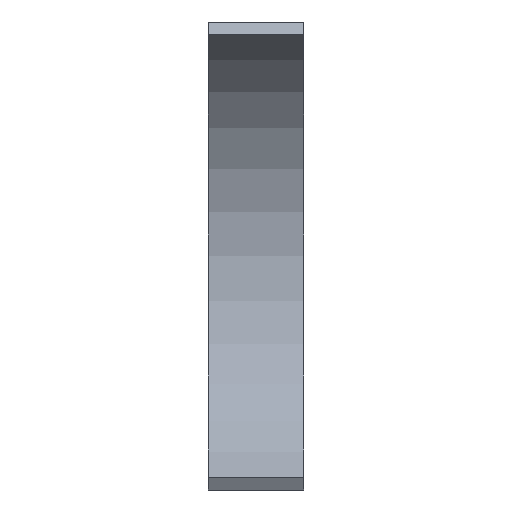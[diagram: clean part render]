
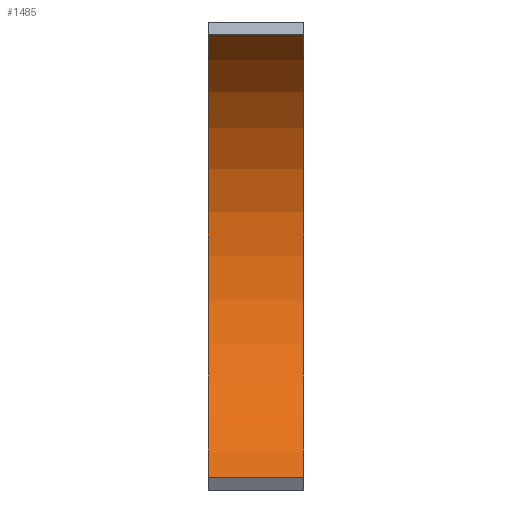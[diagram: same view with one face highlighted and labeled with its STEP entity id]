
A CAD part, top view. The second image highlights one B-rep face of the part: STEP entity #1485.
In plain terms, the highlighted cylindrical face has radius 107 mm (diameter 214 mm), a partial arc.
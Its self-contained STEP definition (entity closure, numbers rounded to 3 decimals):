
#45 = PLANE('',#46);
#46 = AXIS2_PLACEMENT_3D('',#47,#48,#49);
#47 = CARTESIAN_POINT('',(-18.,0.,-86.472));
#48 = DIRECTION('',(1.,0.,0.));
#49 = DIRECTION('',(-0.,0.,1.));
#73 = PLANE('',#74);
#74 = AXIS2_PLACEMENT_3D('',#75,#76,#77);
#75 = CARTESIAN_POINT('',(-18.,-92.665,-53.5));
#76 = DIRECTION('',(0.,0.5,-0.866));
#77 = DIRECTION('',(0.,-0.866,-0.5));
#102 = PLANE('',#103);
#103 = AXIS2_PLACEMENT_3D('',#104,#105,#106);
#104 = CARTESIAN_POINT('',(22.,0.,-86.472));
#105 = DIRECTION('',(1.,0.,0.));
#106 = DIRECTION('',(-0.,0.,1.));
#484 = VERTEX_POINT('',#485);
#485 = CARTESIAN_POINT('',(-18.,-92.665,-53.5));
#616 = VERTEX_POINT('',#617);
#617 = CARTESIAN_POINT('',(-18.,92.665,-53.5));
#631 = PLANE('',#632);
#632 = AXIS2_PLACEMENT_3D('',#633,#634,#635);
#633 = CARTESIAN_POINT('',(-18.,97.861,-56.5));
#634 = DIRECTION('',(0.,-0.5,-0.866));
#635 = DIRECTION('',(0.,-0.866,0.5));
#643 = EDGE_CURVE('',#616,#484,#644,.T.);
#644 = SURFACE_CURVE('',#645,(#650,#661),.PCURVE_S1.);
#645 = CIRCLE('',#646,107.);
#646 = AXIS2_PLACEMENT_3D('',#647,#648,#649);
#647 = CARTESIAN_POINT('',(-18.,0.,0.));
#648 = DIRECTION('',(-1.,-0.,0.));
#649 = DIRECTION('',(-0.,0.866,-0.5));
#650 = PCURVE('',#45,#651);
#651 = DEFINITIONAL_REPRESENTATION('',(#652),#660);
#652 = ( BOUNDED_CURVE() B_SPLINE_CURVE(2,(#653,#654,#655,#656,#657,#658
,#659),.UNSPECIFIED.,.T.,.F.) B_SPLINE_CURVE_WITH_KNOTS((1,2,2,2,2,1),(
    -2.094,0.,2.094,4.189,6.283,
8.378),.UNSPECIFIED.) CURVE() GEOMETRIC_REPRESENTATION_ITEM() 
RATIONAL_B_SPLINE_CURVE((1.,0.5,1.,0.5,1.,0.5,1.)) REPRESENTATION_ITEM(
  '') );
#653 = CARTESIAN_POINT('',(32.972,-92.665));
#654 = CARTESIAN_POINT('',(-127.528,0.));
#655 = CARTESIAN_POINT('',(32.972,92.665));
#656 = CARTESIAN_POINT('',(193.472,185.329));
#657 = CARTESIAN_POINT('',(193.472,0.));
#658 = CARTESIAN_POINT('',(193.472,-185.329));
#659 = CARTESIAN_POINT('',(32.972,-92.665));
#660 = ( GEOMETRIC_REPRESENTATION_CONTEXT(2) 
PARAMETRIC_REPRESENTATION_CONTEXT() REPRESENTATION_CONTEXT('2D SPACE',''
  ) );
#661 = PCURVE('',#662,#667);
#662 = CYLINDRICAL_SURFACE('',#663,107.);
#663 = AXIS2_PLACEMENT_3D('',#664,#665,#666);
#664 = CARTESIAN_POINT('',(-18.,0.,0.));
#665 = DIRECTION('',(-1.,-0.,0.));
#666 = DIRECTION('',(-0.,0.866,-0.5));
#667 = DEFINITIONAL_REPRESENTATION('',(#668),#672);
#668 = LINE('',#669,#670);
#669 = CARTESIAN_POINT('',(0.,0.));
#670 = VECTOR('',#671,1.);
#671 = DIRECTION('',(1.,0.));
#672 = ( GEOMETRIC_REPRESENTATION_CONTEXT(2) 
PARAMETRIC_REPRESENTATION_CONTEXT() REPRESENTATION_CONTEXT('2D SPACE',''
  ) );
#727 = VERTEX_POINT('',#728);
#728 = CARTESIAN_POINT('',(22.,-92.665,-53.5));
#822 = VERTEX_POINT('',#823);
#823 = CARTESIAN_POINT('',(22.,92.665,-53.5));
#844 = EDGE_CURVE('',#822,#727,#845,.T.);
#845 = SURFACE_CURVE('',#846,(#851,#862),.PCURVE_S1.);
#846 = CIRCLE('',#847,107.);
#847 = AXIS2_PLACEMENT_3D('',#848,#849,#850);
#848 = CARTESIAN_POINT('',(22.,0.,0.));
#849 = DIRECTION('',(-1.,-0.,0.));
#850 = DIRECTION('',(-0.,0.866,-0.5));
#851 = PCURVE('',#102,#852);
#852 = DEFINITIONAL_REPRESENTATION('',(#853),#861);
#853 = ( BOUNDED_CURVE() B_SPLINE_CURVE(2,(#854,#855,#856,#857,#858,#859
,#860),.UNSPECIFIED.,.T.,.F.) B_SPLINE_CURVE_WITH_KNOTS((1,2,2,2,2,1),(
    -2.094,0.,2.094,4.189,6.283,
8.378),.UNSPECIFIED.) CURVE() GEOMETRIC_REPRESENTATION_ITEM() 
RATIONAL_B_SPLINE_CURVE((1.,0.5,1.,0.5,1.,0.5,1.)) REPRESENTATION_ITEM(
  '') );
#854 = CARTESIAN_POINT('',(32.972,-92.665));
#855 = CARTESIAN_POINT('',(-127.528,0.));
#856 = CARTESIAN_POINT('',(32.972,92.665));
#857 = CARTESIAN_POINT('',(193.472,185.329));
#858 = CARTESIAN_POINT('',(193.472,0.));
#859 = CARTESIAN_POINT('',(193.472,-185.329));
#860 = CARTESIAN_POINT('',(32.972,-92.665));
#861 = ( GEOMETRIC_REPRESENTATION_CONTEXT(2) 
PARAMETRIC_REPRESENTATION_CONTEXT() REPRESENTATION_CONTEXT('2D SPACE',''
  ) );
#862 = PCURVE('',#662,#863);
#863 = DEFINITIONAL_REPRESENTATION('',(#864),#868);
#864 = LINE('',#865,#866);
#865 = CARTESIAN_POINT('',(0.,-40.));
#866 = VECTOR('',#867,1.);
#867 = DIRECTION('',(1.,0.));
#868 = ( GEOMETRIC_REPRESENTATION_CONTEXT(2) 
PARAMETRIC_REPRESENTATION_CONTEXT() REPRESENTATION_CONTEXT('2D SPACE',''
  ) );
#873 = EDGE_CURVE('',#484,#727,#874,.T.);
#874 = SURFACE_CURVE('',#875,(#879,#886),.PCURVE_S1.);
#875 = LINE('',#876,#877);
#876 = CARTESIAN_POINT('',(-18.,-92.665,-53.5));
#877 = VECTOR('',#878,1.);
#878 = DIRECTION('',(1.,0.,0.));
#879 = PCURVE('',#73,#880);
#880 = DEFINITIONAL_REPRESENTATION('',(#881),#885);
#881 = LINE('',#882,#883);
#882 = CARTESIAN_POINT('',(0.,0.));
#883 = VECTOR('',#884,1.);
#884 = DIRECTION('',(0.,-1.));
#885 = ( GEOMETRIC_REPRESENTATION_CONTEXT(2) 
PARAMETRIC_REPRESENTATION_CONTEXT() REPRESENTATION_CONTEXT('2D SPACE',''
  ) );
#886 = PCURVE('',#662,#887);
#887 = DEFINITIONAL_REPRESENTATION('',(#888),#892);
#888 = LINE('',#889,#890);
#889 = CARTESIAN_POINT('',(2.094,0.));
#890 = VECTOR('',#891,1.);
#891 = DIRECTION('',(0.,-1.));
#892 = ( GEOMETRIC_REPRESENTATION_CONTEXT(2) 
PARAMETRIC_REPRESENTATION_CONTEXT() REPRESENTATION_CONTEXT('2D SPACE',''
  ) );
#1464 = EDGE_CURVE('',#616,#822,#1465,.T.);
#1465 = SURFACE_CURVE('',#1466,(#1470,#1477),.PCURVE_S1.);
#1466 = LINE('',#1467,#1468);
#1467 = CARTESIAN_POINT('',(-18.,92.665,-53.5));
#1468 = VECTOR('',#1469,1.);
#1469 = DIRECTION('',(1.,0.,0.));
#1470 = PCURVE('',#631,#1471);
#1471 = DEFINITIONAL_REPRESENTATION('',(#1472),#1476);
#1472 = LINE('',#1473,#1474);
#1473 = CARTESIAN_POINT('',(6.,0.));
#1474 = VECTOR('',#1475,1.);
#1475 = DIRECTION('',(0.,-1.));
#1476 = ( GEOMETRIC_REPRESENTATION_CONTEXT(2) 
PARAMETRIC_REPRESENTATION_CONTEXT() REPRESENTATION_CONTEXT('2D SPACE',''
  ) );
#1477 = PCURVE('',#662,#1478);
#1478 = DEFINITIONAL_REPRESENTATION('',(#1479),#1483);
#1479 = LINE('',#1480,#1481);
#1480 = CARTESIAN_POINT('',(0.,0.));
#1481 = VECTOR('',#1482,1.);
#1482 = DIRECTION('',(0.,-1.));
#1483 = ( GEOMETRIC_REPRESENTATION_CONTEXT(2) 
PARAMETRIC_REPRESENTATION_CONTEXT() REPRESENTATION_CONTEXT('2D SPACE',''
  ) );
#1485 = ADVANCED_FACE('',(#1486),#662,.F.);
#1486 = FACE_BOUND('',#1487,.F.);
#1487 = EDGE_LOOP('',(#1488,#1489,#1490,#1491));
#1488 = ORIENTED_EDGE('',*,*,#1464,.T.);
#1489 = ORIENTED_EDGE('',*,*,#844,.T.);
#1490 = ORIENTED_EDGE('',*,*,#873,.F.);
#1491 = ORIENTED_EDGE('',*,*,#643,.F.);
